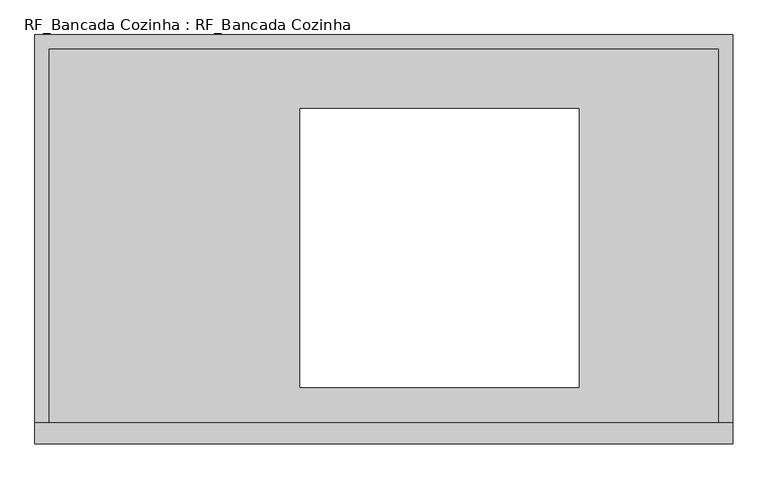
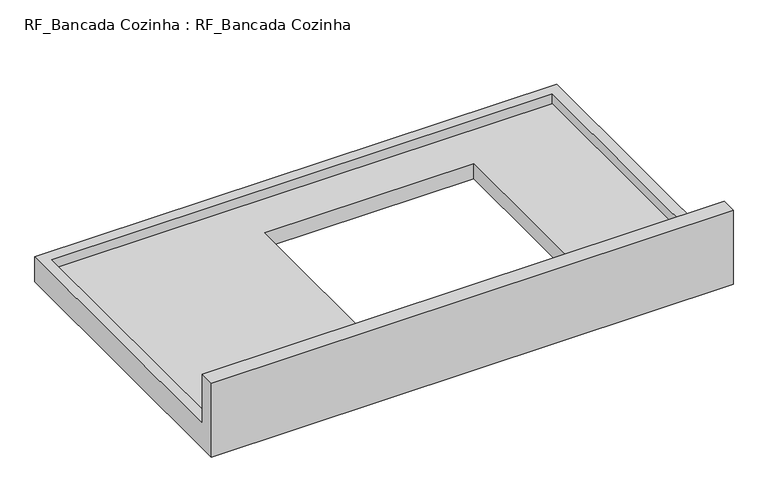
"""IFC4 building model written with IfcOpenShell, lengths in millimetres: proxy geometry, RF_Bancada Cozinha : RF_Bancada Cozinha."""

from ifc_helpers import new_model, si_unit, origin, place, context, project, spatial, faceted_brep, source, transform, mapped, element, save


def rf_bancada_cozinha_rf_bancada_cozinha_cfb88ba1(model_context):
    return source(origin(), model_context, "Body", "Brep", [
        faceted_brep([(1000.0, 0.0, 150.0), (1000.0, 0.0, 0.0), (1000.0, 586.2819009, 0.0), (1000.0, 586.2819009, 50.0), (1000.0, 30.0, 50.0), (1000.0, 30.0, 150.0), (0.0, 0.0, 150.0), (0.0, 30.0, 150.0), (0.0, 30.0, 50.0), (0.0, 586.2819009, 50.0), (0.0, 586.2819009, 0.0), (0.0, 0.0, 0.0), (980.0, 30.0, 50.0), (980.0, 30.0, 30.0), (20.0, 30.0, 30.0), (20.0, 30.0, 50.0), (20.0, 566.2819009, 50.0), (980.0, 566.2819009, 50.0), (380.0, 80.5819009, 0.0), (780.0, 80.5819009, 0.0), (780.0, 480.5819009, 0.0), (380.0, 480.5819009, 0.0), (980.0, 566.2819009, 30.0), (20.0, 566.2819009, 30.0), (380.0, 480.5819009, 30.0), (780.0, 480.5819009, 30.0), (780.0, 80.5819009, 30.0), (380.0, 80.5819009, 30.0)], [[[0, 1, 2, 3, 4, 5]], [[6, 7, 8, 9, 10, 11]], [[5, 7, 6, 0]], [[4, 12, 13, 14, 15, 8, 7, 5]], [[3, 9, 8, 15, 16, 17, 12, 4]], [[2, 10, 9, 3]], [[1, 11, 10, 2], [18, 19, 20, 21]], [[0, 6, 11, 1]], [[13, 22, 23, 14], [24, 25, 26, 27]], [[13, 12, 17, 22]], [[22, 17, 16, 23]], [[23, 16, 15, 14]], [[24, 27, 18, 21]], [[27, 26, 19, 18]], [[26, 25, 20, 19]], [[21, 20, 25, 24]]]),
    ])


if __name__ == "__main__":
    model = new_model("IFC4")
    model_context = context("Model", 3, world=origin())
    ifc_project = project(units=[si_unit("LENGTHUNIT", "METRE", prefix="MILLI")], contexts=[model_context])
    site = spatial("IfcSite", under=ifc_project)
    building = spatial("IfcBuilding", under=site)
    placement = place(None, origin())
    rf_bancada_cozinha_rf_bancada_cozinha_shape = rf_bancada_cozinha_rf_bancada_cozinha_cfb88ba1(model_context)
    element("IfcBuildingElementProxy", 1, Name="RF_Bancada Cozinha : RF_Bancada Cozinha", ObjectType="RF_Bancada Cozinha : RF_Bancada Cozinha", at=placement, inside=building, context=model_context, shape_type="MappedRepresentation", body=[
        mapped(rf_bancada_cozinha_rf_bancada_cozinha_shape, transform((0.0, 0.0, 0.0), x_axis=(1.0, 0.0, 0.0), y_axis=(0.0, 1.0, 0.0), z_axis=(0.0, 0.0, 1.0))),
    ])
    save(model, "model.ifc")
